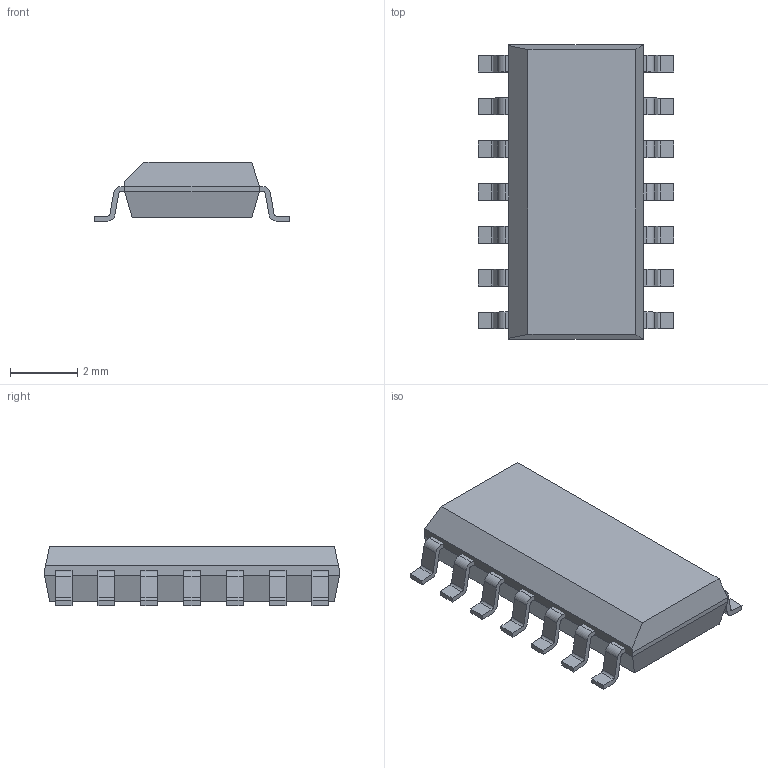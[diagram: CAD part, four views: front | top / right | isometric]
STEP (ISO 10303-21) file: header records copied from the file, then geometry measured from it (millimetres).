
FILE_DESCRIPTION(('FreeCAD Model'),'2;1');
FILE_NAME('Open CASCADE Shape Model','2025-02-17T21:04:41',( 'Krisjanis Rijnieks'),(''),'Open CASCADE STEP processor 7.7', 'FreeCAD','Unknown');
FILE_SCHEMA(('AUTOMOTIVE_DESIGN { 1 0 10303 214 1 1 1 1 }'));
Length unit declared in the file: millimetre
Products named in the file (16): TXB0104DR_SOIC-14; Body; Lead; Body002; Body003; Body004; Body005; Body006; Body007; Body008; Body009; Body010; Body011; Body012; Body013; Body014
Assembly tree (15 placements, depth 2):
  TXB0104DR_SOIC-14
    Body
    Lead
    Body002
    Body003
    Body004
    Body005
    Body006
    Body007
    Body008
    Body009
    Body010
    Body011
    Body012
    Body013
    Body014
Bounding box: 5.81 x 8.75 x 1.77 mm (x, y, z)
Volume: 57 mm3; surface area: 167.6 mm2
Topology: 15 solids, 15 shells, 210 faces, 534 edges, 354 vertices
Faces by surface type: plane 154, cylinder 56
Entity records: 6707 total; most frequent: CARTESIAN_POINT 1114, DIRECTION 1098, ORIENTED_EDGE 1068, EDGE_CURVE 534, LINE 422, VECTOR 422, VERTEX_POINT 354, AXIS2_PLACEMENT_3D 338
